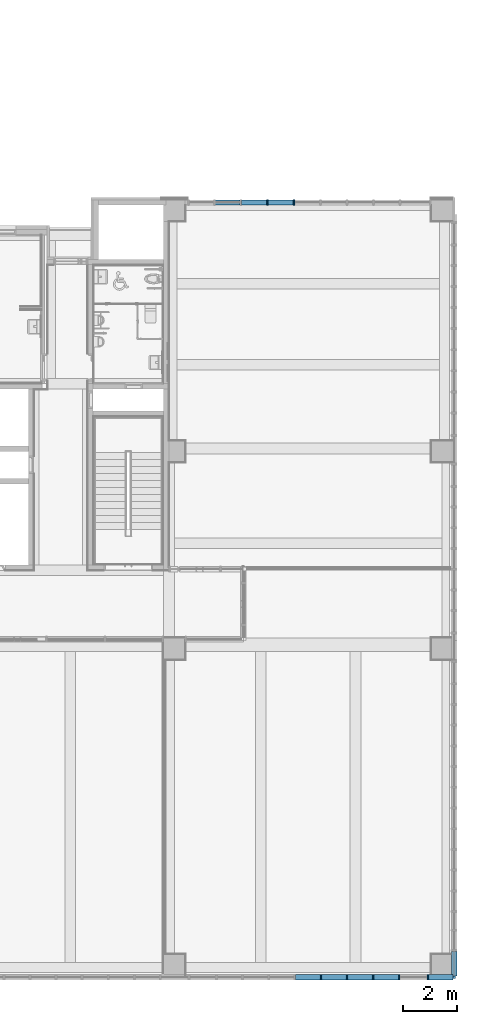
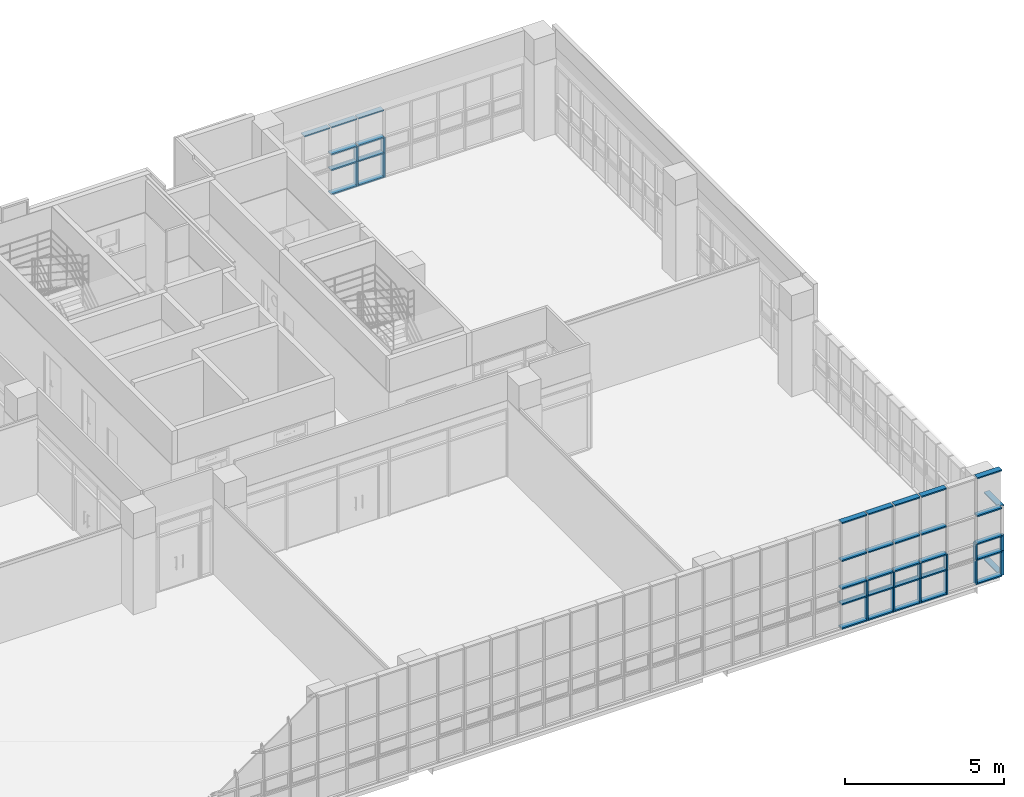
# One storey, part 21 of 76: 52 members, 3 elements without a shape of their own.
"""IFC2X3 building model written with IfcOpenShell, lengths in millimetres."""

from ifc_helpers import new_model, entity, si_unit, converted_unit, derived_unit, direction, frame, origin, origin_2d_with_axis, place, context, subcontext, project, spatial, rectangle, extrude, source, transform, mapped, material, type_object, type_shapes, element, aggregate, save


model = new_model("IFC2X3")

# Units and contexts
model_context = context("Model", 3, precision=0.01, world=origin(), true_north=direction((6.123031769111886e-17, 1.0)))
body_context = subcontext(model_context, "Body", "Model", "MODEL_VIEW")
ifc_project = project(units=[si_unit("LENGTHUNIT", "METRE", prefix="MILLI"), si_unit("AREAUNIT", "SQUARE_METRE"), si_unit("VOLUMEUNIT", "CUBIC_METRE"), converted_unit("PLANEANGLEUNIT", "DEGREE", entity("IfcRatioMeasure", 0.017453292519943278), si_unit("PLANEANGLEUNIT", "RADIAN"), dimensions=[0, 0, 0, 0, 0, 0, 0]), si_unit("MASSUNIT", "GRAM", prefix="KILO"), derived_unit("MASSDENSITYUNIT", [(si_unit("MASSUNIT", "GRAM", prefix="KILO"), 1), (si_unit("LENGTHUNIT", "METRE"), -3)]), derived_unit("MOMENTOFINERTIAUNIT", [(si_unit("LENGTHUNIT", "METRE"), 4)]), si_unit("TIMEUNIT", "SECOND"), si_unit("FREQUENCYUNIT", "HERTZ"), si_unit("THERMODYNAMICTEMPERATUREUNIT", "DEGREE_CELSIUS"), derived_unit("THERMALTRANSMITTANCEUNIT", [(si_unit("MASSUNIT", "GRAM", prefix="KILO"), 1), (si_unit("THERMODYNAMICTEMPERATUREUNIT", "KELVIN"), -1), (si_unit("TIMEUNIT", "SECOND"), -3)]), derived_unit("VOLUMETRICFLOWRATEUNIT", [(si_unit("LENGTHUNIT", "METRE"), 3), (si_unit("TIMEUNIT", "SECOND"), -1)]), derived_unit("MASSFLOWRATEUNIT", [(si_unit("MASSUNIT", "GRAM", prefix="KILO"), 1), (si_unit("TIMEUNIT", "SECOND"), -1)]), derived_unit("ROTATIONALFREQUENCYUNIT", [(si_unit("TIMEUNIT", "SECOND"), -1)]), si_unit("ELECTRICCURRENTUNIT", "AMPERE"), si_unit("ELECTRICVOLTAGEUNIT", "VOLT"), si_unit("POWERUNIT", "WATT"), si_unit("FORCEUNIT", "NEWTON", prefix="KILO"), si_unit("ILLUMINANCEUNIT", "LUX"), si_unit("LUMINOUSFLUXUNIT", "LUMEN"), si_unit("LUMINOUSINTENSITYUNIT", "CANDELA"), derived_unit("USERDEFINED", [(si_unit("MASSUNIT", "GRAM", prefix="KILO"), -1), (si_unit("LENGTHUNIT", "METRE"), -2), (si_unit("TIMEUNIT", "SECOND"), 3), (si_unit("LUMINOUSFLUXUNIT", "LUMEN"), 1)]), derived_unit("SOUNDPOWERUNIT", [(si_unit("MASSUNIT", "GRAM", prefix="KILO"), 1), (si_unit("LENGTHUNIT", "METRE"), 2), (si_unit("TIMEUNIT", "SECOND"), -3)]), derived_unit("SOUNDPRESSUREUNIT", [(si_unit("MASSUNIT", "GRAM", prefix="KILO"), 1), (si_unit("LENGTHUNIT", "METRE"), -1), (si_unit("TIMEUNIT", "SECOND"), -2)]), derived_unit("LINEARVELOCITYUNIT", [(si_unit("LENGTHUNIT", "METRE"), 1), (si_unit("TIMEUNIT", "SECOND"), -1)]), si_unit("PRESSUREUNIT", "PASCAL"), derived_unit("USERDEFINED", [(si_unit("LENGTHUNIT", "METRE"), -2), (si_unit("MASSUNIT", "GRAM", prefix="KILO"), 1), (si_unit("TIMEUNIT", "SECOND"), -2)]), derived_unit("LINEARFORCEUNIT", [(si_unit("MASSUNIT", "GRAM", prefix="KILO"), 1), (si_unit("LENGTHUNIT", "METRE"), 1), (si_unit("TIMEUNIT", "SECOND"), -2), (si_unit("LENGTHUNIT", "METRE"), -1)]), derived_unit("PLANARFORCEUNIT", [(si_unit("MASSUNIT", "GRAM", prefix="KILO"), 1), (si_unit("LENGTHUNIT", "METRE"), 1), (si_unit("TIMEUNIT", "SECOND"), -2), (si_unit("LENGTHUNIT", "METRE"), -2)])], contexts=[model_context])

# Site, building, storey
site_placement = place(None, frame((-14167.972527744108, -657.2125860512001, 0.0)))
site = spatial("IfcSite", under=ifc_project, at=site_placement, Name="Default", CompositionType="ELEMENT")
building_placement = place(site_placement, origin())
building = spatial("IfcBuilding", under=site, at=building_placement, Name="Sample Building", CompositionType="ELEMENT")
storey_placement = place(building_placement, frame((0.0, 0.0, 9300.0)))
storey = spatial("IfcBuildingStorey", under=building, at=storey_placement, Name="지상 3층", CompositionType="ELEMENT", Elevation=9300.000000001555)

# Curtain wall, members
curtain_wall_type = type_object("IfcCurtainWallType", Name="커튼월:CW112-스테인리스 스틸 커튼월", PredefinedType="NOTDEFINED")
curtain_wall_1_placement = place(storey_placement, frame((0.0, 0.0, -9300.0)))
curtain_wall_1 = element("IfcCurtainWall", 1, at=curtain_wall_1_placement, inside=storey, type_object=curtain_wall_type, Name="커튼월:CW112-스테인리스 스틸 커튼월", ObjectType="커튼월:CW112-스테인리스 스틸 커튼월")
ifc_material = material(Name="<Unnamed>")
member_type_1 = type_object("IfcMemberType", Name="직사각형 멀리언:CW200-직사각형 멀리언 50x200mm", PredefinedType="MULLION", material=ifc_material)
shared_shape_1 = source(origin(), body_context, "Body", "SweptSolid", [
    extrude(rectangle(XDim=200.0, YDim=50.0, at=origin_2d_with_axis()), frame((0.0, 0.0, -600.0), z_axis=(0.0, 0.0, 1.0), x_axis=(0.0, -1.0, 0.0)), (0.0, 0.0, 1.0), 600.0),
])
type_shapes(member_type_1, [shared_shape_1])
member_1_placement = place(curtain_wall_1_placement, frame((46590.15607007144, 507.2122951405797, 10330.0), z_axis=(0.0, 0.0, -1.0), x_axis=(1.0, 0.0, 0.0)))
member_1 = element("IfcMember", 2, at=member_1_placement, type_object=member_type_1, material=ifc_material, Name="직사각형 멀리언:CW200-직사각형 멀리언 50x200mm", ObjectType="직사각형 멀리언:CW200-직사각형 멀리언 50x200mm", context=body_context, shape_type="MappedRepresentation", body=[
    mapped(shared_shape_1, transform((0.0, 0.0, 0.0), scale=1.0)),
])
member_2_placement = place(curtain_wall_1_placement, frame((47555.15607007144, 507.21229514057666, 10330.0), z_axis=(0.0, 0.0, -1.0), x_axis=(1.0, 0.0, 0.0)))
member_2 = element("IfcMember", 3, at=member_2_placement, type_object=member_type_1, material=ifc_material, Name="직사각형 멀리언:CW200-직사각형 멀리언 50x200mm", ObjectType="직사각형 멀리언:CW200-직사각형 멀리언 50x200mm", context=body_context, shape_type="MappedRepresentation", body=[
    mapped(shared_shape_1, transform((0.0, 0.0, 0.0), scale=1.0)),
])
member_3_placement = place(curtain_wall_1_placement, frame((48520.15607007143, 507.21229514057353, 10330.0), z_axis=(0.0, 0.0, -1.0), x_axis=(1.0, 0.0, 0.0)))
member_3 = element("IfcMember", 4, at=member_3_placement, type_object=member_type_1, material=ifc_material, Name="직사각형 멀리언:CW200-직사각형 멀리언 50x200mm", ObjectType="직사각형 멀리언:CW200-직사각형 멀리언 50x200mm", context=body_context, shape_type="MappedRepresentation", body=[
    mapped(shared_shape_1, transform((0.0, 0.0, 0.0), scale=1.0)),
])
member_4_placement = place(curtain_wall_1_placement, frame((49485.15607007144, 507.2122951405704, 10330.0), z_axis=(0.0, 0.0, -1.0), x_axis=(1.0, 0.0, 0.0)))
member_4 = element("IfcMember", 5, at=member_4_placement, type_object=member_type_1, material=ifc_material, Name="직사각형 멀리언:CW200-직사각형 멀리언 50x200mm", ObjectType="직사각형 멀리언:CW200-직사각형 멀리언 50x200mm", context=body_context, shape_type="MappedRepresentation", body=[
    mapped(shared_shape_1, transform((0.0, 0.0, 0.0), scale=1.0)),
])
member_5_placement = place(curtain_wall_1_placement, frame((50550.15607007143, 507.21229514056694, 10330.0), z_axis=(0.0, 0.0, -1.0), x_axis=(1.0, 0.0, 0.0)))
member_5 = element("IfcMember", 6, at=member_5_placement, type_object=member_type_1, material=ifc_material, Name="직사각형 멀리언:CW200-직사각형 멀리언 50x200mm", ObjectType="직사각형 멀리언:CW200-직사각형 멀리언 50x200mm", context=body_context, shape_type="MappedRepresentation", body=[
    mapped(shared_shape_1, transform((0.0, 0.0, 0.0), scale=1.0)),
])

curtain_wall_2_placement = place(storey_placement, frame((0.0, 0.0, -9300.0)))
curtain_wall_2 = element("IfcCurtainWall", 7, at=curtain_wall_2_placement, inside=storey, type_object=curtain_wall_type, Name="커튼월:CW112-스테인리스 스틸 커튼월", ObjectType="커튼월:CW112-스테인리스 스틸 커튼월")
member_6_placement = place(curtain_wall_2_placement, frame((45587.969022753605, 29157.212295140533, 10330.0), z_axis=(0.0, 0.0, -1.0), x_axis=(-1.0, 0.0, 0.0)))
member_6 = element("IfcMember", 8, at=member_6_placement, type_object=member_type_1, material=ifc_material, Name="직사각형 멀리언:CW200-직사각형 멀리언 50x200mm", ObjectType="직사각형 멀리언:CW200-직사각형 멀리언 50x200mm", context=body_context, shape_type="MappedRepresentation", body=[
    mapped(shared_shape_1, transform((0.0, 0.0, 0.0), scale=1.0)),
])
member_7_placement = place(curtain_wall_2_placement, frame((44607.96988839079, 29157.212295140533, 10330.0), z_axis=(0.0, 0.0, -1.0), x_axis=(-1.0, 0.0, 0.0)))
member_7 = element("IfcMember", 9, at=member_7_placement, type_object=member_type_1, material=ifc_material, Name="직사각형 멀리언:CW200-직사각형 멀리언 50x200mm", ObjectType="직사각형 멀리언:CW200-직사각형 멀리언 50x200mm", context=body_context, shape_type="MappedRepresentation", body=[
    mapped(shared_shape_1, transform((0.0, 0.0, 0.0), scale=1.0)),
])

# Member
member_type_2 = type_object("IfcMemberType", Name="직사각형 멀리언:CW200-직사각형 멀리언 50x200mm", PredefinedType="MULLION", material=ifc_material)
shared_shape_2 = source(origin(), body_context, "Body", "SweptSolid", [
    extrude(rectangle(XDim=200.0, YDim=50.0, at=origin_2d_with_axis()), frame((0.0, 0.0, -950.0), z_axis=(0.0, 0.0, 1.0), x_axis=(0.0, -1.0, 0.0)), (0.0, 0.0, 1.0), 949.9999999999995),
])
type_shapes(member_type_2, [shared_shape_2])
member_8_placement = place(curtain_wall_1_placement, frame((46590.15607007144, 507.2122951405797, 9380.0), z_axis=(0.0, 0.0, -1.0), x_axis=(1.0, 0.0, 0.0)))
member_8 = element("IfcMember", 10, at=member_8_placement, type_object=member_type_2, material=ifc_material, Name="직사각형 멀리언:CW200-직사각형 멀리언 50x200mm", ObjectType="직사각형 멀리언:CW200-직사각형 멀리언 50x200mm", context=body_context, shape_type="MappedRepresentation", body=[
    mapped(shared_shape_2, transform((0.0, 0.0, 0.0), scale=1.0)),
])

member_9_placement = place(curtain_wall_1_placement, frame((47555.15607007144, 507.21229514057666, 9380.0), z_axis=(0.0, 0.0, -1.0), x_axis=(1.0, 0.0, 0.0)))
member_9 = element("IfcMember", 11, at=member_9_placement, type_object=member_type_2, material=ifc_material, Name="직사각형 멀리언:CW200-직사각형 멀리언 50x200mm", ObjectType="직사각형 멀리언:CW200-직사각형 멀리언 50x200mm", context=body_context, shape_type="MappedRepresentation", body=[
    mapped(shared_shape_2, transform((0.0, 0.0, 0.0), scale=1.0)),
])

member_10_placement = place(curtain_wall_1_placement, frame((48520.15607007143, 507.21229514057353, 9380.0), z_axis=(0.0, 0.0, -1.0), x_axis=(1.0, 0.0, 0.0)))
member_10 = element("IfcMember", 12, at=member_10_placement, type_object=member_type_2, material=ifc_material, Name="직사각형 멀리언:CW200-직사각형 멀리언 50x200mm", ObjectType="직사각형 멀리언:CW200-직사각형 멀리언 50x200mm", context=body_context, shape_type="MappedRepresentation", body=[
    mapped(shared_shape_2, transform((0.0, 0.0, 0.0), scale=1.0)),
])

member_11_placement = place(curtain_wall_1_placement, frame((49485.15607007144, 507.2122951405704, 9380.0), z_axis=(0.0, 0.0, -1.0), x_axis=(1.0, 0.0, 0.0)))
member_11 = element("IfcMember", 13, at=member_11_placement, type_object=member_type_2, material=ifc_material, Name="직사각형 멀리언:CW200-직사각형 멀리언 50x200mm", ObjectType="직사각형 멀리언:CW200-직사각형 멀리언 50x200mm", context=body_context, shape_type="MappedRepresentation", body=[
    mapped(shared_shape_2, transform((0.0, 0.0, 0.0), scale=1.0)),
])

member_12_placement = place(curtain_wall_1_placement, frame((50550.15607007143, 507.21229514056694, 9380.0), z_axis=(0.0, 0.0, -1.0), x_axis=(1.0, 0.0, 0.0)))
member_12 = element("IfcMember", 14, at=member_12_placement, type_object=member_type_2, material=ifc_material, Name="직사각형 멀리언:CW200-직사각형 멀리언 50x200mm", ObjectType="직사각형 멀리언:CW200-직사각형 멀리언 50x200mm", context=body_context, shape_type="MappedRepresentation", body=[
    mapped(shared_shape_2, transform((0.0, 0.0, 0.0), scale=1.0)),
])

member_13_placement = place(curtain_wall_2_placement, frame((45587.969022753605, 29157.212295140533, 9380.0), z_axis=(0.0, 0.0, -1.0), x_axis=(-1.0, 0.0, 0.0)))
member_13 = element("IfcMember", 15, at=member_13_placement, type_object=member_type_2, material=ifc_material, Name="직사각형 멀리언:CW200-직사각형 멀리언 50x200mm", ObjectType="직사각형 멀리언:CW200-직사각형 멀리언 50x200mm", context=body_context, shape_type="MappedRepresentation", body=[
    mapped(shared_shape_2, transform((0.0, 0.0, 0.0), scale=1.0)),
])

member_14_placement = place(curtain_wall_2_placement, frame((44607.96988839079, 29157.212295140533, 9380.0), z_axis=(0.0, 0.0, -1.0), x_axis=(-1.0, 0.0, 0.0)))
member_14 = element("IfcMember", 16, at=member_14_placement, type_object=member_type_2, material=ifc_material, Name="직사각형 멀리언:CW200-직사각형 멀리언 50x200mm", ObjectType="직사각형 멀리언:CW200-직사각형 멀리언 50x200mm", context=body_context, shape_type="MappedRepresentation", body=[
    mapped(shared_shape_2, transform((0.0, 0.0, 0.0), scale=1.0)),
])

member_type_3 = type_object("IfcMemberType", Name="직사각형 멀리언:CW200-직사각형 멀리언 50x200mm", PredefinedType="MULLION", material=ifc_material)
shared_shape_3 = source(origin(), body_context, "Body", "SweptSolid", [
    extrude(rectangle(XDim=200.0, YDim=50.0, at=origin_2d_with_axis()), frame((-25.0, 0.0, -892.8077588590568), z_axis=(0.0, 0.0, 1.0), x_axis=(0.0, -1.0, 0.0)), (0.0, 0.0, 1.0), 892.8077588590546),
])
type_shapes(member_type_3, [shared_shape_3])
member_15_placement = place(curtain_wall_1_placement, frame((51467.963828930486, 507.212295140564, 13480.0), z_axis=(1.0, 0.0, 0.0), x_axis=(0.0, 0.0, 1.0)))
member_15 = element("IfcMember", 17, at=member_15_placement, type_object=member_type_3, material=ifc_material, Name="직사각형 멀리언:CW200-직사각형 멀리언 50x200mm", ObjectType="직사각형 멀리언:CW200-직사각형 멀리언 50x200mm", context=body_context, shape_type="MappedRepresentation", body=[
    mapped(shared_shape_3, transform((0.0, 0.0, 0.0), scale=1.0)),
])

member_type_4 = type_object("IfcMemberType", Name="직사각형 멀리언:CW200-직사각형 멀리언 50x200mm", PredefinedType="MULLION", material=ifc_material)
shared_shape_4 = source(origin(), body_context, "Body", "SweptSolid", [
    extrude(rectangle(XDim=200.0, YDim=50.0, at=origin_2d_with_axis()), frame((-25.0, 0.0, -915.0), z_axis=(0.0, 0.0, 1.0), x_axis=(0.0, -1.0, 0.0)), (0.0, 0.0, 1.0), 914.9999999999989),
])
type_shapes(member_type_4, [shared_shape_4])
member_16_placement = place(curtain_wall_1_placement, frame((45650.15607007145, 507.2122951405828, 9380.0), z_axis=(-1.0, 0.0, 0.0), x_axis=(0.0, 0.0, -1.0)))
member_16 = element("IfcMember", 18, at=member_16_placement, type_object=member_type_4, material=ifc_material, Name="직사각형 멀리언:CW200-직사각형 멀리언 50x200mm", ObjectType="직사각형 멀리언:CW200-직사각형 멀리언 50x200mm", context=body_context, shape_type="MappedRepresentation", body=[
    mapped(shared_shape_4, transform((0.0, 0.0, 0.0), scale=1.0)),
])

member_17_placement = place(curtain_wall_1_placement, frame((46615.15607007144, 507.21229514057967, 9380.0), z_axis=(-1.0, 0.0, 0.0), x_axis=(0.0, 0.0, -1.0)))
member_17 = element("IfcMember", 19, at=member_17_placement, type_object=member_type_4, material=ifc_material, Name="직사각형 멀리언:CW200-직사각형 멀리언 50x200mm", ObjectType="직사각형 멀리언:CW200-직사각형 멀리언 50x200mm", context=body_context, shape_type="MappedRepresentation", body=[
    mapped(shared_shape_4, transform((0.0, 0.0, 0.0), scale=1.0)),
])

member_18_placement = place(curtain_wall_1_placement, frame((47580.15607007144, 507.21229514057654, 9380.0), z_axis=(-1.0, 0.0, 0.0), x_axis=(0.0, 0.0, -1.0)))
member_18 = element("IfcMember", 20, at=member_18_placement, type_object=member_type_4, material=ifc_material, Name="직사각형 멀리언:CW200-직사각형 멀리언 50x200mm", ObjectType="직사각형 멀리언:CW200-직사각형 멀리언 50x200mm", context=body_context, shape_type="MappedRepresentation", body=[
    mapped(shared_shape_4, transform((0.0, 0.0, 0.0), scale=1.0)),
])

member_19_placement = place(curtain_wall_1_placement, frame((48545.15607007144, 507.2122951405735, 9380.0), z_axis=(-1.0, 0.0, 0.0), x_axis=(0.0, 0.0, -1.0)))
member_19 = element("IfcMember", 21, at=member_19_placement, type_object=member_type_4, material=ifc_material, Name="직사각형 멀리언:CW200-직사각형 멀리언 50x200mm", ObjectType="직사각형 멀리언:CW200-직사각형 멀리언 50x200mm", context=body_context, shape_type="MappedRepresentation", body=[
    mapped(shared_shape_4, transform((0.0, 0.0, 0.0), scale=1.0)),
])

member_type_5 = type_object("IfcMemberType", Name="직사각형 멀리언:CW200-직사각형 멀리언 50x200mm", PredefinedType="MULLION", material=ifc_material)
shared_shape_5 = source(origin(), body_context, "Body", "SweptSolid", [
    extrude(rectangle(XDim=200.0, YDim=50.0, at=origin_2d_with_axis()), frame((0.0, 0.0, -915.0), z_axis=(0.0, 0.0, 1.0), x_axis=(0.0, -1.0, 0.0)), (0.0, 0.0, 1.0), 915.000000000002),
])
type_shapes(member_type_5, [shared_shape_5])
member_20_placement = place(curtain_wall_1_placement, frame((46565.15607007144, 507.21229514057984, 10330.0), z_axis=(1.0, 0.0, 0.0), x_axis=(0.0, 0.0, 1.0)))
member_20 = element("IfcMember", 22, at=member_20_placement, type_object=member_type_5, material=ifc_material, Name="직사각형 멀리언:CW200-직사각형 멀리언 50x200mm", ObjectType="직사각형 멀리언:CW200-직사각형 멀리언 50x200mm", context=body_context, shape_type="MappedRepresentation", body=[
    mapped(shared_shape_5, transform((0.0, 0.0, 0.0), scale=1.0)),
])

member_21_placement = place(curtain_wall_1_placement, frame((47530.15607007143, 507.2122951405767, 10330.0), z_axis=(1.0, 0.0, 0.0), x_axis=(0.0, 0.0, 1.0)))
member_21 = element("IfcMember", 23, at=member_21_placement, type_object=member_type_5, material=ifc_material, Name="직사각형 멀리언:CW200-직사각형 멀리언 50x200mm", ObjectType="직사각형 멀리언:CW200-직사각형 멀리언 50x200mm", context=body_context, shape_type="MappedRepresentation", body=[
    mapped(shared_shape_5, transform((0.0, 0.0, 0.0), scale=1.0)),
])

member_22_placement = place(curtain_wall_1_placement, frame((48495.15607007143, 507.2122951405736, 10330.0), z_axis=(1.0, 0.0, 0.0), x_axis=(0.0, 0.0, 1.0)))
member_22 = element("IfcMember", 24, at=member_22_placement, type_object=member_type_5, material=ifc_material, Name="직사각형 멀리언:CW200-직사각형 멀리언 50x200mm", ObjectType="직사각형 멀리언:CW200-직사각형 멀리언 50x200mm", context=body_context, shape_type="MappedRepresentation", body=[
    mapped(shared_shape_5, transform((0.0, 0.0, 0.0), scale=1.0)),
])

member_23_placement = place(curtain_wall_1_placement, frame((49460.15607007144, 507.21229514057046, 10330.0), z_axis=(1.0, 0.0, 0.0), x_axis=(0.0, 0.0, 1.0)))
member_23 = element("IfcMember", 25, at=member_23_placement, type_object=member_type_5, material=ifc_material, Name="직사각형 멀리언:CW200-직사각형 멀리언 50x200mm", ObjectType="직사각형 멀리언:CW200-직사각형 멀리언 50x200mm", context=body_context, shape_type="MappedRepresentation", body=[
    mapped(shared_shape_5, transform((0.0, 0.0, 0.0), scale=1.0)),
])

member_24_placement = place(curtain_wall_1_placement, frame((46565.15607007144, 507.21229514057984, 10930.0), z_axis=(1.0, 0.0, 0.0), x_axis=(0.0, 0.0, 1.0)))
member_24 = element("IfcMember", 26, at=member_24_placement, type_object=member_type_5, material=ifc_material, Name="직사각형 멀리언:CW200-직사각형 멀리언 50x200mm", ObjectType="직사각형 멀리언:CW200-직사각형 멀리언 50x200mm", context=body_context, shape_type="MappedRepresentation", body=[
    mapped(shared_shape_5, transform((0.0, 0.0, 0.0), scale=1.0)),
])

member_25_placement = place(curtain_wall_1_placement, frame((47530.15607007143, 507.2122951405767, 10930.0), z_axis=(1.0, 0.0, 0.0), x_axis=(0.0, 0.0, 1.0)))
member_25 = element("IfcMember", 27, at=member_25_placement, type_object=member_type_5, material=ifc_material, Name="직사각형 멀리언:CW200-직사각형 멀리언 50x200mm", ObjectType="직사각형 멀리언:CW200-직사각형 멀리언 50x200mm", context=body_context, shape_type="MappedRepresentation", body=[
    mapped(shared_shape_5, transform((0.0, 0.0, 0.0), scale=1.0)),
])

member_26_placement = place(curtain_wall_1_placement, frame((48495.15607007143, 507.2122951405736, 10930.0), z_axis=(1.0, 0.0, 0.0), x_axis=(0.0, 0.0, 1.0)))
member_26 = element("IfcMember", 28, at=member_26_placement, type_object=member_type_5, material=ifc_material, Name="직사각형 멀리언:CW200-직사각형 멀리언 50x200mm", ObjectType="직사각형 멀리언:CW200-직사각형 멀리언 50x200mm", context=body_context, shape_type="MappedRepresentation", body=[
    mapped(shared_shape_5, transform((0.0, 0.0, 0.0), scale=1.0)),
])

member_27_placement = place(curtain_wall_1_placement, frame((49460.15607007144, 507.21229514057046, 10930.0), z_axis=(1.0, 0.0, 0.0), x_axis=(0.0, 0.0, 1.0)))
member_27 = element("IfcMember", 29, at=member_27_placement, type_object=member_type_5, material=ifc_material, Name="직사각형 멀리언:CW200-직사각형 멀리언 50x200mm", ObjectType="직사각형 멀리언:CW200-직사각형 멀리언 50x200mm", context=body_context, shape_type="MappedRepresentation", body=[
    mapped(shared_shape_5, transform((0.0, 0.0, 0.0), scale=1.0)),
])

member_28_placement = place(curtain_wall_1_placement, frame((46565.15607007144, 507.21229514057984, 12000.0), z_axis=(1.0, 0.0, 0.0), x_axis=(0.0, 0.0, 1.0)))
member_28 = element("IfcMember", 30, at=member_28_placement, type_object=member_type_5, material=ifc_material, Name="직사각형 멀리언:CW200-직사각형 멀리언 50x200mm", ObjectType="직사각형 멀리언:CW200-직사각형 멀리언 50x200mm", context=body_context, shape_type="MappedRepresentation", body=[
    mapped(shared_shape_5, transform((0.0, 0.0, 0.0), scale=1.0)),
])

member_29_placement = place(curtain_wall_1_placement, frame((47530.15607007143, 507.2122951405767, 12000.0), z_axis=(1.0, 0.0, 0.0), x_axis=(0.0, 0.0, 1.0)))
member_29 = element("IfcMember", 31, at=member_29_placement, type_object=member_type_5, material=ifc_material, Name="직사각형 멀리언:CW200-직사각형 멀리언 50x200mm", ObjectType="직사각형 멀리언:CW200-직사각형 멀리언 50x200mm", context=body_context, shape_type="MappedRepresentation", body=[
    mapped(shared_shape_5, transform((0.0, 0.0, 0.0), scale=1.0)),
])

member_30_placement = place(curtain_wall_1_placement, frame((48495.15607007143, 507.2122951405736, 12000.0), z_axis=(1.0, 0.0, 0.0), x_axis=(0.0, 0.0, 1.0)))
member_30 = element("IfcMember", 32, at=member_30_placement, type_object=member_type_5, material=ifc_material, Name="직사각형 멀리언:CW200-직사각형 멀리언 50x200mm", ObjectType="직사각형 멀리언:CW200-직사각형 멀리언 50x200mm", context=body_context, shape_type="MappedRepresentation", body=[
    mapped(shared_shape_5, transform((0.0, 0.0, 0.0), scale=1.0)),
])

member_31_placement = place(curtain_wall_1_placement, frame((49460.15607007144, 507.21229514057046, 12000.0), z_axis=(1.0, 0.0, 0.0), x_axis=(0.0, 0.0, 1.0)))
member_31 = element("IfcMember", 33, at=member_31_placement, type_object=member_type_5, material=ifc_material, Name="직사각형 멀리언:CW200-직사각형 멀리언 50x200mm", ObjectType="직사각형 멀리언:CW200-직사각형 멀리언 50x200mm", context=body_context, shape_type="MappedRepresentation", body=[
    mapped(shared_shape_5, transform((0.0, 0.0, 0.0), scale=1.0)),
])

member_type_6 = type_object("IfcMemberType", Name="직사각형 멀리언:CW200-직사각형 멀리언 50x200mm", PredefinedType="MULLION", material=ifc_material)
shared_shape_6 = source(origin(), body_context, "Body", "SweptSolid", [
    extrude(rectangle(XDim=200.0, YDim=50.0, at=origin_2d_with_axis()), frame((-25.0, 0.0, -915.0), z_axis=(0.0, 0.0, 1.0), x_axis=(0.0, -1.0, 0.0)), (0.0, 0.0, 1.0), 914.9999999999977),
])
type_shapes(member_type_6, [shared_shape_6])
member_32_placement = place(curtain_wall_1_placement, frame((46565.15607007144, 507.21229514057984, 13480.0), z_axis=(1.0, 0.0, 0.0), x_axis=(0.0, 0.0, 1.0)))
member_32 = element("IfcMember", 34, at=member_32_placement, type_object=member_type_6, material=ifc_material, Name="직사각형 멀리언:CW200-직사각형 멀리언 50x200mm", ObjectType="직사각형 멀리언:CW200-직사각형 멀리언 50x200mm", context=body_context, shape_type="MappedRepresentation", body=[
    mapped(shared_shape_6, transform((0.0, 0.0, 0.0), scale=1.0)),
])

member_33_placement = place(curtain_wall_1_placement, frame((47530.15607007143, 507.2122951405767, 13480.0), z_axis=(1.0, 0.0, 0.0), x_axis=(0.0, 0.0, 1.0)))
member_33 = element("IfcMember", 35, at=member_33_placement, type_object=member_type_6, material=ifc_material, Name="직사각형 멀리언:CW200-직사각형 멀리언 50x200mm", ObjectType="직사각형 멀리언:CW200-직사각형 멀리언 50x200mm", context=body_context, shape_type="MappedRepresentation", body=[
    mapped(shared_shape_6, transform((0.0, 0.0, 0.0), scale=1.0)),
])

member_34_placement = place(curtain_wall_1_placement, frame((48495.15607007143, 507.2122951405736, 13480.0), z_axis=(1.0, 0.0, 0.0), x_axis=(0.0, 0.0, 1.0)))
member_34 = element("IfcMember", 36, at=member_34_placement, type_object=member_type_6, material=ifc_material, Name="직사각형 멀리언:CW200-직사각형 멀리언 50x200mm", ObjectType="직사각형 멀리언:CW200-직사각형 멀리언 50x200mm", context=body_context, shape_type="MappedRepresentation", body=[
    mapped(shared_shape_6, transform((0.0, 0.0, 0.0), scale=1.0)),
])

member_35_placement = place(curtain_wall_1_placement, frame((49460.156070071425, 507.21229514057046, 13480.0), z_axis=(1.0, 0.0, 0.0), x_axis=(0.0, 0.0, 1.0)))
member_35 = element("IfcMember", 37, at=member_35_placement, type_object=member_type_6, material=ifc_material, Name="직사각형 멀리언:CW200-직사각형 멀리언 50x200mm", ObjectType="직사각형 멀리언:CW200-직사각형 멀리언 50x200mm", context=body_context, shape_type="MappedRepresentation", body=[
    mapped(shared_shape_6, transform((0.0, 0.0, 0.0), scale=1.0)),
])

member_type_7 = type_object("IfcMemberType", Name="직사각형 멀리언:CW200-직사각형 멀리언 50x200mm", PredefinedType="MULLION", material=ifc_material)
shared_shape_7 = source(origin(), body_context, "Body", "SweptSolid", [
    extrude(rectangle(XDim=200.0, YDim=50.0, at=origin_2d_with_axis()), frame((-25.0, 0.0, -892.8077588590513), z_axis=(0.0, 0.0, 1.0), x_axis=(0.0, -1.0, 0.0)), (0.0, 0.0, 1.0), 892.8077588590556),
])
type_shapes(member_type_7, [shared_shape_7])
member_36_placement = place(curtain_wall_1_placement, frame((50575.15607007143, 507.2122951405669, 9380.0), z_axis=(-1.0, 0.0, 0.0), x_axis=(0.0, 0.0, -1.0)))
member_36 = element("IfcMember", 38, at=member_36_placement, type_object=member_type_7, material=ifc_material, Name="직사각형 멀리언:CW200-직사각형 멀리언 50x200mm", ObjectType="직사각형 멀리언:CW200-직사각형 멀리언 50x200mm", context=body_context, shape_type="MappedRepresentation", body=[
    mapped(shared_shape_7, transform((0.0, 0.0, 0.0), scale=1.0)),
])

member_type_8 = type_object("IfcMemberType", Name="직사각형 멀리언:CW200-직사각형 멀리언 50x200mm", PredefinedType="MULLION", material=ifc_material)
shared_shape_8 = source(origin(), body_context, "Body", "SweptSolid", [
    extrude(rectangle(XDim=200.0, YDim=50.0, at=origin_2d_with_axis()), frame((0.0, 0.0, -892.8077588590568), z_axis=(0.0, 0.0, 1.0), x_axis=(0.0, -1.0, 0.0)), (0.0, 0.0, 1.0), 892.8077588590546),
])
type_shapes(member_type_8, [shared_shape_8])
member_37_placement = place(curtain_wall_1_placement, frame((51467.963828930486, 507.212295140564, 10330.0), z_axis=(1.0, 0.0, 0.0), x_axis=(0.0, 0.0, 1.0)))
member_37 = element("IfcMember", 39, at=member_37_placement, type_object=member_type_8, material=ifc_material, Name="직사각형 멀리언:CW200-직사각형 멀리언 50x200mm", ObjectType="직사각형 멀리언:CW200-직사각형 멀리언 50x200mm", context=body_context, shape_type="MappedRepresentation", body=[
    mapped(shared_shape_8, transform((0.0, 0.0, 0.0), scale=1.0)),
])

member_38_placement = place(curtain_wall_1_placement, frame((51467.963828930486, 507.212295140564, 10930.0), z_axis=(1.0, 0.0, 0.0), x_axis=(0.0, 0.0, 1.0)))
member_38 = element("IfcMember", 40, at=member_38_placement, type_object=member_type_8, material=ifc_material, Name="직사각형 멀리언:CW200-직사각형 멀리언 50x200mm", ObjectType="직사각형 멀리언:CW200-직사각형 멀리언 50x200mm", context=body_context, shape_type="MappedRepresentation", body=[
    mapped(shared_shape_8, transform((0.0, 0.0, 0.0), scale=1.0)),
])

member_39_placement = place(curtain_wall_1_placement, frame((51467.963828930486, 507.212295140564, 12000.0), z_axis=(1.0, 0.0, 0.0), x_axis=(0.0, 0.0, 1.0)))
member_39 = element("IfcMember", 41, at=member_39_placement, type_object=member_type_8, material=ifc_material, Name="직사각형 멀리언:CW200-직사각형 멀리언 50x200mm", ObjectType="직사각형 멀리언:CW200-직사각형 멀리언 50x200mm", context=body_context, shape_type="MappedRepresentation", body=[
    mapped(shared_shape_8, transform((0.0, 0.0, 0.0), scale=1.0)),
])

aggregate(curtain_wall_1, [member_15, member_32, member_33, member_34, member_35, member_16, member_17, member_18, member_19, member_36, member_20, member_21, member_22, member_23, member_37, member_24, member_25, member_26, member_27, member_38, member_28, member_29, member_30, member_31, member_39, member_8, member_9, member_10, member_11, member_12, member_1, member_2, member_3, member_4, member_5])

# Curtain wall, members
curtain_wall_3_placement = place(storey_placement, frame((0.0, 0.0, -9300.0)))
curtain_wall_3 = element("IfcCurtainWall", 42, at=curtain_wall_3_placement, inside=storey, type_object=curtain_wall_type, Name="커튼월:CW112-스테인리스 스틸 커튼월", ObjectType="커튼월:CW112-스테인리스 스틸 커튼월")
member_type_9 = type_object("IfcMemberType", Name="직사각형 멀리언:CW200-직사각형 멀리언 50x200mm", PredefinedType="MULLION", material=ifc_material)
shared_shape_9 = source(origin(), body_context, "Body", "SweptSolid", [
    extrude(rectangle(XDim=200.0, YDim=50.0, at=origin_2d_with_axis()), frame((-25.0, 0.0, -912.6053991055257), z_axis=(0.0, 0.0, 1.0), x_axis=(0.0, -1.0, 0.0)), (0.0, 0.0, 1.0), 912.6053991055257),
])
type_shapes(member_type_9, [shared_shape_9])
member_40_placement = place(curtain_wall_3_placement, frame((51517.96382893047, 557.2123079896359, 12000.0), z_axis=(0.0, -1.0, 0.0), x_axis=(0.0, 0.0, 1.0)))
member_40 = element("IfcMember", 43, at=member_40_placement, type_object=member_type_9, material=ifc_material, Name="직사각형 멀리언:CW200-직사각형 멀리언 50x200mm", ObjectType="직사각형 멀리언:CW200-직사각형 멀리언 50x200mm", context=body_context, shape_type="MappedRepresentation", body=[
    mapped(shared_shape_9, transform((0.0, 0.0, 0.0), scale=1.0)),
])
member_type_10 = type_object("IfcMemberType", Name="직사각형 멀리언:CW200-직사각형 멀리언 100 x 100mm", PredefinedType="MULLION", material=ifc_material)
shared_shape_10 = source(origin(), body_context, "Body", "SweptSolid", [
    extrude(rectangle(XDim=100.0, YDim=100.0, at=origin_2d_with_axis()), frame((-50.0, 0.0, -950.0), z_axis=(0.0, 0.0, 1.0), x_axis=(0.0, -1.0, 0.0)), (0.0, 0.0, 1.0), 950.0000000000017),
])
type_shapes(member_type_10, [shared_shape_10])
member_41_placement = place(curtain_wall_3_placement, frame((51517.96382893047, 457.21230798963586, 9380.0), z_axis=(0.0, 0.0, -1.0), x_axis=(0.0, -1.0, 0.0)))
member_41 = element("IfcMember", 44, at=member_41_placement, type_object=member_type_10, material=ifc_material, Name="직사각형 멀리언:CW200-직사각형 멀리언 100 x 100mm", ObjectType="직사각형 멀리언:CW200-직사각형 멀리언 100 x 100mm", context=body_context, shape_type="MappedRepresentation", body=[
    mapped(shared_shape_10, transform((0.0, 0.0, 0.0), scale=1.0)),
])
member_type_11 = type_object("IfcMemberType", Name="직사각형 멀리언:CW200-직사각형 멀리언 100 x 100mm", PredefinedType="MULLION", material=ifc_material)
shared_shape_11 = source(origin(), body_context, "Body", "SweptSolid", [
    extrude(rectangle(XDim=99.99999999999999, YDim=100.0, at=origin_2d_with_axis()), frame((-50.0, 0.0, -600.0), z_axis=(0.0, 0.0, 1.0), x_axis=(0.0, -1.0, 0.0)), (0.0, 0.0, 1.0), 600.0),
])
type_shapes(member_type_11, [shared_shape_11])
member_42_placement = place(curtain_wall_3_placement, frame((51517.96382893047, 457.2123079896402, 10330.0), z_axis=(0.0, 0.0, -1.0), x_axis=(0.0, -1.0, 0.0)))
member_42 = element("IfcMember", 45, at=member_42_placement, type_object=member_type_11, material=ifc_material, Name="직사각형 멀리언:CW200-직사각형 멀리언 100 x 100mm", ObjectType="직사각형 멀리언:CW200-직사각형 멀리언 100 x 100mm", context=body_context, shape_type="MappedRepresentation", body=[
    mapped(shared_shape_11, transform((0.0, 0.0, 0.0), scale=1.0)),
])
member_type_12 = type_object("IfcMemberType", Name="직사각형 멀리언:CW200-직사각형 멀리언 50x200mm", PredefinedType="MULLION", material=ifc_material)
shared_shape_12 = source(origin(), body_context, "Body", "SweptSolid", [
    extrude(rectangle(XDim=200.0, YDim=50.0, at=origin_2d_with_axis()), frame((-25.0, 0.0, -912.605399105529), z_axis=(0.0, 0.0, 1.0), x_axis=(0.0, -1.0, 0.0)), (0.0, 0.0, 1.0), 912.605399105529),
])
type_shapes(member_type_12, [shared_shape_12])
member_43_placement = place(curtain_wall_3_placement, frame((51517.96382893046, 1469.8177070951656, 9380.0), z_axis=(0.0, 1.0, 0.0), x_axis=(0.0, 0.0, -1.0)))
member_43 = element("IfcMember", 46, at=member_43_placement, type_object=member_type_12, material=ifc_material, Name="직사각형 멀리언:CW200-직사각형 멀리언 50x200mm", ObjectType="직사각형 멀리언:CW200-직사각형 멀리언 50x200mm", context=body_context, shape_type="MappedRepresentation", body=[
    mapped(shared_shape_12, transform((0.0, 0.0, 0.0), scale=1.0)),
])
aggregate(curtain_wall_3, [member_40, member_41, member_42, member_43])

# Member
member_type_13 = type_object("IfcMemberType", Name="직사각형 멀리언:CW200-직사각형 멀리언 50x200mm", PredefinedType="MULLION", material=ifc_material)
shared_shape_13 = source(origin(), body_context, "Body", "SweptSolid", [
    extrude(rectangle(XDim=200.0, YDim=50.0, at=origin_2d_with_axis()), frame((-25.0, 0.0, -929.9991343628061), z_axis=(0.0, 0.0, 1.0), x_axis=(0.0, -1.0, 0.0)), (0.0, 0.0, 1.0), 929.9991343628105),
])
type_shapes(member_type_13, [shared_shape_13])
member_44_placement = place(curtain_wall_2_placement, frame((45562.969022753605, 29157.212295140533, 9380.0), z_axis=(1.0, 0.0, 0.0), x_axis=(0.0, 0.0, -1.0)))
member_44 = element("IfcMember", 47, at=member_44_placement, type_object=member_type_13, material=ifc_material, Name="직사각형 멀리언:CW200-직사각형 멀리언 50x200mm", ObjectType="직사각형 멀리언:CW200-직사각형 멀리언 50x200mm", context=body_context, shape_type="MappedRepresentation", body=[
    mapped(shared_shape_13, transform((0.0, 0.0, 0.0), scale=1.0)),
])

member_45_placement = place(curtain_wall_2_placement, frame((44582.96988839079, 29157.212295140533, 9380.0), z_axis=(1.0, 0.0, 0.0), x_axis=(0.0, 0.0, -1.0)))
member_45 = element("IfcMember", 48, at=member_45_placement, type_object=member_type_13, material=ifc_material, Name="직사각형 멀리언:CW200-직사각형 멀리언 50x200mm", ObjectType="직사각형 멀리언:CW200-직사각형 멀리언 50x200mm", context=body_context, shape_type="MappedRepresentation", body=[
    mapped(shared_shape_13, transform((0.0, 0.0, 0.0), scale=1.0)),
])

member_type_14 = type_object("IfcMemberType", Name="직사각형 멀리언:CW200-직사각형 멀리언 50x200mm", PredefinedType="MULLION", material=ifc_material)
shared_shape_14 = source(origin(), body_context, "Body", "SweptSolid", [
    extrude(rectangle(XDim=200.0, YDim=50.0, at=origin_2d_with_axis()), frame((0.0, 0.0, -929.9991343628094), z_axis=(0.0, 0.0, 1.0), x_axis=(0.0, -1.0, 0.0)), (0.0, 0.0, 1.0), 929.9991343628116),
])
type_shapes(member_type_14, [shared_shape_14])
member_46_placement = place(curtain_wall_2_placement, frame((44632.9698883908, 29157.212295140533, 10330.0), z_axis=(-1.0, 0.0, 0.0), x_axis=(0.0, 0.0, 1.0)))
member_46 = element("IfcMember", 49, at=member_46_placement, type_object=member_type_14, material=ifc_material, Name="직사각형 멀리언:CW200-직사각형 멀리언 50x200mm", ObjectType="직사각형 멀리언:CW200-직사각형 멀리언 50x200mm", context=body_context, shape_type="MappedRepresentation", body=[
    mapped(shared_shape_14, transform((0.0, 0.0, 0.0), scale=1.0)),
])

member_47_placement = place(curtain_wall_2_placement, frame((44632.9698883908, 29157.212295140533, 10930.0), z_axis=(-1.0, 0.0, 0.0), x_axis=(0.0, 0.0, 1.0)))
member_47 = element("IfcMember", 50, at=member_47_placement, type_object=member_type_14, material=ifc_material, Name="직사각형 멀리언:CW200-직사각형 멀리언 50x200mm", ObjectType="직사각형 멀리언:CW200-직사각형 멀리언 50x200mm", context=body_context, shape_type="MappedRepresentation", body=[
    mapped(shared_shape_14, transform((0.0, 0.0, 0.0), scale=1.0)),
])

member_48_placement = place(curtain_wall_2_placement, frame((43652.970754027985, 29157.212295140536, 10330.0), z_axis=(-1.0, 0.0, 0.0), x_axis=(0.0, 0.0, 1.0)))
member_48 = element("IfcMember", 51, at=member_48_placement, type_object=member_type_14, material=ifc_material, Name="직사각형 멀리언:CW200-직사각형 멀리언 50x200mm", ObjectType="직사각형 멀리언:CW200-직사각형 멀리언 50x200mm", context=body_context, shape_type="MappedRepresentation", body=[
    mapped(shared_shape_14, transform((0.0, 0.0, 0.0), scale=1.0)),
])

member_49_placement = place(curtain_wall_2_placement, frame((43652.970754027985, 29157.212295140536, 10930.0), z_axis=(-1.0, 0.0, 0.0), x_axis=(0.0, 0.0, 1.0)))
member_49 = element("IfcMember", 52, at=member_49_placement, type_object=member_type_14, material=ifc_material, Name="직사각형 멀리언:CW200-직사각형 멀리언 50x200mm", ObjectType="직사각형 멀리언:CW200-직사각형 멀리언 50x200mm", context=body_context, shape_type="MappedRepresentation", body=[
    mapped(shared_shape_14, transform((0.0, 0.0, 0.0), scale=1.0)),
])

member_type_15 = type_object("IfcMemberType", Name="직사각형 멀리언:CW200-직사각형 멀리언 50x200mm", PredefinedType="MULLION", material=ifc_material)
shared_shape_15 = source(origin(), body_context, "Body", "SweptSolid", [
    extrude(rectangle(XDim=200.0, YDim=50.0, at=origin_2d_with_axis()), frame((-25.0, 0.0, -929.9991343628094), z_axis=(0.0, 0.0, 1.0), x_axis=(0.0, -1.0, 0.0)), (0.0, 0.0, 1.0), 929.9991343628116),
])
type_shapes(member_type_15, [shared_shape_15])
member_50_placement = place(curtain_wall_2_placement, frame((44632.9698883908, 29157.212295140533, 12000.0), z_axis=(-1.0, 0.0, 0.0), x_axis=(0.0, 0.0, 1.0)))
member_50 = element("IfcMember", 53, at=member_50_placement, type_object=member_type_15, material=ifc_material, Name="직사각형 멀리언:CW200-직사각형 멀리언 50x200mm", ObjectType="직사각형 멀리언:CW200-직사각형 멀리언 50x200mm", context=body_context, shape_type="MappedRepresentation", body=[
    mapped(shared_shape_15, transform((0.0, 0.0, 0.0), scale=1.0)),
])

member_51_placement = place(curtain_wall_2_placement, frame((43652.970754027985, 29157.212295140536, 12000.0), z_axis=(-1.0, 0.0, 0.0), x_axis=(0.0, 0.0, 1.0)))
member_51 = element("IfcMember", 54, at=member_51_placement, type_object=member_type_15, material=ifc_material, Name="직사각형 멀리언:CW200-직사각형 멀리언 50x200mm", ObjectType="직사각형 멀리언:CW200-직사각형 멀리언 50x200mm", context=body_context, shape_type="MappedRepresentation", body=[
    mapped(shared_shape_15, transform((0.0, 0.0, 0.0), scale=1.0)),
])

member_52_placement = place(curtain_wall_2_placement, frame((42672.97161966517, 29157.21229514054, 12000.0), z_axis=(-1.0, 0.0, 0.0), x_axis=(0.0, 0.0, 1.0)))
member_52 = element("IfcMember", 55, at=member_52_placement, type_object=member_type_15, material=ifc_material, Name="직사각형 멀리언:CW200-직사각형 멀리언 50x200mm", ObjectType="직사각형 멀리언:CW200-직사각형 멀리언 50x200mm", context=body_context, shape_type="MappedRepresentation", body=[
    mapped(shared_shape_15, transform((0.0, 0.0, 0.0), scale=1.0)),
])

aggregate(curtain_wall_2, [member_44, member_46, member_47, member_13, member_6, member_50, member_45, member_48, member_49, member_14, member_7, member_51, member_52])

save(model, "model.ifc")
